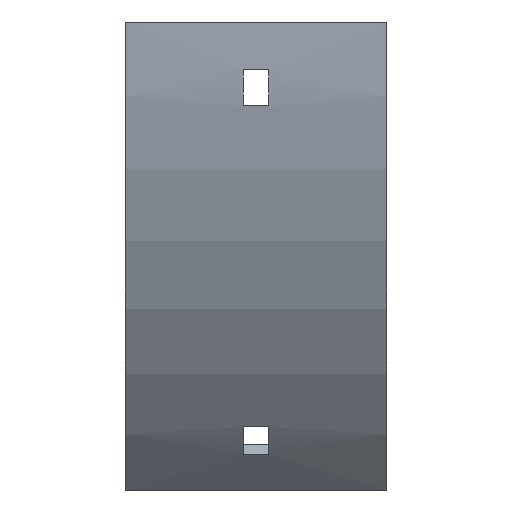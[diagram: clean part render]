
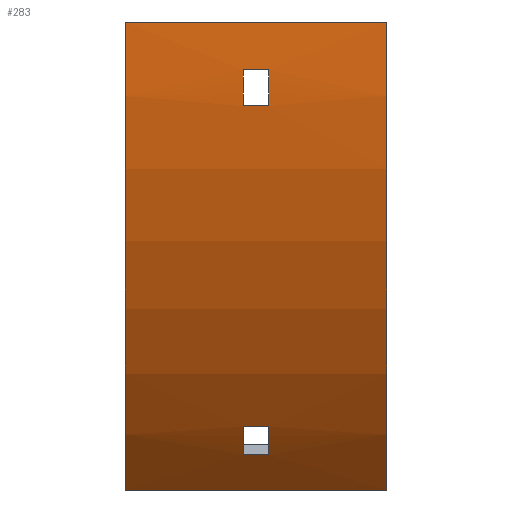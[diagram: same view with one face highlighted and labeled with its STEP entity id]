
A CAD part, front view. The second image highlights one B-rep face of the part: STEP entity #283.
In plain terms, the highlighted cylindrical face has radius 165.5 mm (diameter 331 mm), a partial arc.
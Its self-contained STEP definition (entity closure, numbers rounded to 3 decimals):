
#14 = VERTEX_POINT ( 'NONE', #685 ) ;
#22 = VERTEX_POINT ( 'NONE', #678 ) ;
#29 = EDGE_LOOP ( 'NONE', ( #1124, #449, #313, #114 ) ) ;
#32 = DIRECTION ( 'NONE',  ( 0., 0., 1. ) ) ;
#33 = VERTEX_POINT ( 'NONE', #783 ) ;
#42 = DIRECTION ( 'NONE',  ( 0., 0., -1. ) ) ;
#61 = EDGE_CURVE ( 'NONE', #14, #1048, #970, .T. ) ;
#73 = FACE_BOUND ( 'NONE', #29, .T. ) ;
#82 = ORIENTED_EDGE ( 'NONE', *, *, #150, .F. ) ;
#90 = CARTESIAN_POINT ( 'NONE',  ( -3.25, -25.203, -108.233 ) ) ;
#114 = ORIENTED_EDGE ( 'NONE', *, *, #597, .F. ) ;
#131 = CARTESIAN_POINT ( 'NONE',  ( -32.75, -17.026, -117.026 ) ) ;
#133 = EDGE_CURVE ( 'NONE', #891, #170, #1105, .T. ) ;
#145 = CARTESIAN_POINT ( 'NONE',  ( 32.75, -30.929, -101.231 ) ) ;
#150 = EDGE_CURVE ( 'NONE', #697, #766, #173, .T. ) ;
#152 = VECTOR ( 'NONE', #908, 1000. ) ;
#154 = DIRECTION ( 'NONE',  ( 1., 0., 0. ) ) ;
#161 = LINE ( 'NONE', #796, #302 ) ;
#163 = CARTESIAN_POINT ( 'NONE',  ( 3.25, -30.929, -101.231 ) ) ;
#168 = AXIS2_PLACEMENT_3D ( 'NONE', #600, #959, #1114 ) ;
#170 = VERTEX_POINT ( 'NONE', #977 ) ;
#173 = CIRCLE ( 'NONE', #293, 165.5 ) ;
#193 = CARTESIAN_POINT ( 'NONE',  ( 32.75, -17.026, -117.026 ) ) ;
#237 = AXIS2_PLACEMENT_3D ( 'NONE', #385, #1027, #32 ) ;
#239 = DIRECTION ( 'NONE',  ( 0., 0., 1. ) ) ;
#251 = CARTESIAN_POINT ( 'NONE',  ( 3.25, -65.064, -12. ) ) ;
#252 = EDGE_CURVE ( 'NONE', #170, #33, #982, .T. ) ;
#254 = CIRCLE ( 'NONE', #237, 165.5 ) ;
#257 = ORIENTED_EDGE ( 'NONE', *, *, #540, .F. ) ;
#283 = ADVANCED_FACE ( 'NONE', ( #1144, #942, #73 ), #1126, .T. ) ;
#293 = AXIS2_PLACEMENT_3D ( 'NONE', #396, #662, #1019 ) ;
#302 = VECTOR ( 'NONE', #1139, 1000. ) ;
#313 = ORIENTED_EDGE ( 'NONE', *, *, #803, .F. ) ;
#327 = VERTEX_POINT ( 'NONE', #545 ) ;
#335 = CARTESIAN_POINT ( 'NONE',  ( -3.25, 100., 0. ) ) ;
#336 = LINE ( 'NONE', #688, #391 ) ;
#339 = VECTOR ( 'NONE', #769, 1000. ) ;
#351 = VECTOR ( 'NONE', #1047, 1000. ) ;
#381 = ORIENTED_EDGE ( 'NONE', *, *, #939, .T. ) ;
#385 = CARTESIAN_POINT ( 'NONE',  ( 3.25, 100., 0. ) ) ;
#391 = VECTOR ( 'NONE', #871, 1000. ) ;
#394 = EDGE_CURVE ( 'NONE', #327, #891, #519, .T. ) ;
#396 = CARTESIAN_POINT ( 'NONE',  ( 32.75, 100., 0. ) ) ;
#422 = LINE ( 'NONE', #596, #351 ) ;
#430 = CARTESIAN_POINT ( 'NONE',  ( 32.75, 100., 0. ) ) ;
#438 = EDGE_CURVE ( 'NONE', #1069, #14, #454, .T. ) ;
#449 = ORIENTED_EDGE ( 'NONE', *, *, #438, .F. ) ;
#454 = LINE ( 'NONE', #145, #339 ) ;
#470 = ORIENTED_EDGE ( 'NONE', *, *, #1004, .T. ) ;
#488 = ORIENTED_EDGE ( 'NONE', *, *, #133, .T. ) ;
#519 = LINE ( 'NONE', #1145, #879 ) ;
#540 = EDGE_CURVE ( 'NONE', #766, #838, #422, .T. ) ;
#545 = CARTESIAN_POINT ( 'NONE',  ( -3.25, -65.064, -12. ) ) ;
#565 = CARTESIAN_POINT ( 'NONE',  ( 3.25, 100., 0. ) ) ;
#573 = AXIS2_PLACEMENT_3D ( 'NONE', #335, #684, #239 ) ;
#577 = EDGE_LOOP ( 'NONE', ( #833, #381, #1033, #488 ) ) ;
#592 = DIRECTION ( 'NONE',  ( -1., 0., 0. ) ) ;
#596 = CARTESIAN_POINT ( 'NONE',  ( 32.75, -17.026, -117.026 ) ) ;
#597 = EDGE_CURVE ( 'NONE', #1048, #799, #336, .T. ) ;
#600 = CARTESIAN_POINT ( 'NONE',  ( -3.25, 100., 0. ) ) ;
#620 = EDGE_CURVE ( 'NONE', #697, #22, #161, .T. ) ;
#625 = CARTESIAN_POINT ( 'NONE',  ( 32.75, -65.5, 0. ) ) ;
#648 = AXIS2_PLACEMENT_3D ( 'NONE', #430, #592, #690 ) ;
#662 = DIRECTION ( 'NONE',  ( 1., 0., 0. ) ) ;
#678 = CARTESIAN_POINT ( 'NONE',  ( -32.75, -65.5, 0. ) ) ;
#684 = DIRECTION ( 'NONE',  ( -1., 0., 0. ) ) ;
#685 = CARTESIAN_POINT ( 'NONE',  ( -3.25, -30.929, -101.231 ) ) ;
#688 = CARTESIAN_POINT ( 'NONE',  ( 32.75, -25.203, -108.233 ) ) ;
#690 = DIRECTION ( 'NONE',  ( 0., 0., 1. ) ) ;
#697 = VERTEX_POINT ( 'NONE', #625 ) ;
#749 = CIRCLE ( 'NONE', #573, 165.5 ) ;
#766 = VERTEX_POINT ( 'NONE', #193 ) ;
#769 = DIRECTION ( 'NONE',  ( -1., 0., 0. ) ) ;
#783 = CARTESIAN_POINT ( 'NONE',  ( -3.25, -64.162, -21. ) ) ;
#787 = CIRCLE ( 'NONE', #1116, 165.5 ) ;
#796 = CARTESIAN_POINT ( 'NONE',  ( 32.75, -65.5, 0. ) ) ;
#799 = VERTEX_POINT ( 'NONE', #1010 ) ;
#803 = EDGE_CURVE ( 'NONE', #799, #1069, #254, .T. ) ;
#833 = ORIENTED_EDGE ( 'NONE', *, *, #252, .T. ) ;
#838 = VERTEX_POINT ( 'NONE', #131 ) ;
#871 = DIRECTION ( 'NONE',  ( 1., 0., 0. ) ) ;
#879 = VECTOR ( 'NONE', #154, 1000. ) ;
#884 = DIRECTION ( 'NONE',  ( 0., 0., -1. ) ) ;
#891 = VERTEX_POINT ( 'NONE', #251 ) ;
#893 = CARTESIAN_POINT ( 'NONE',  ( 32.75, -64.162, -21. ) ) ;
#908 = DIRECTION ( 'NONE',  ( -1., 0., 0. ) ) ;
#919 = ORIENTED_EDGE ( 'NONE', *, *, #620, .T. ) ;
#939 = EDGE_CURVE ( 'NONE', #33, #327, #749, .T. ) ;
#942 = FACE_BOUND ( 'NONE', #577, .T. ) ;
#959 = DIRECTION ( 'NONE',  ( 1., 0., 0. ) ) ;
#970 = CIRCLE ( 'NONE', #168, 165.5 ) ;
#976 = CARTESIAN_POINT ( 'NONE',  ( -32.75, 100., 0. ) ) ;
#977 = CARTESIAN_POINT ( 'NONE',  ( 3.25, -64.162, -21. ) ) ;
#982 = LINE ( 'NONE', #893, #152 ) ;
#1004 = EDGE_CURVE ( 'NONE', #22, #838, #787, .T. ) ;
#1010 = CARTESIAN_POINT ( 'NONE',  ( 3.25, -25.203, -108.233 ) ) ;
#1019 = DIRECTION ( 'NONE',  ( 0., 0., -1. ) ) ;
#1027 = DIRECTION ( 'NONE',  ( -1., 0., 0. ) ) ;
#1033 = ORIENTED_EDGE ( 'NONE', *, *, #394, .T. ) ;
#1047 = DIRECTION ( 'NONE',  ( -1., 0., 0. ) ) ;
#1048 = VERTEX_POINT ( 'NONE', #90 ) ;
#1069 = VERTEX_POINT ( 'NONE', #163 ) ;
#1074 = EDGE_LOOP ( 'NONE', ( #470, #257, #82, #919 ) ) ;
#1093 = DIRECTION ( 'NONE',  ( 1., 0., 0. ) ) ;
#1105 = CIRCLE ( 'NONE', #1138, 165.5 ) ;
#1114 = DIRECTION ( 'NONE',  ( 0., 0., -1. ) ) ;
#1116 = AXIS2_PLACEMENT_3D ( 'NONE', #976, #1143, #884 ) ;
#1124 = ORIENTED_EDGE ( 'NONE', *, *, #61, .F. ) ;
#1126 = CYLINDRICAL_SURFACE ( 'NONE', #648, 165.5 ) ;
#1138 = AXIS2_PLACEMENT_3D ( 'NONE', #565, #1093, #42 ) ;
#1139 = DIRECTION ( 'NONE',  ( -1., 0., 0. ) ) ;
#1143 = DIRECTION ( 'NONE',  ( 1., 0., 0. ) ) ;
#1144 = FACE_OUTER_BOUND ( 'NONE', #1074, .T. ) ;
#1145 = CARTESIAN_POINT ( 'NONE',  ( 32.75, -65.064, -12. ) ) ;
